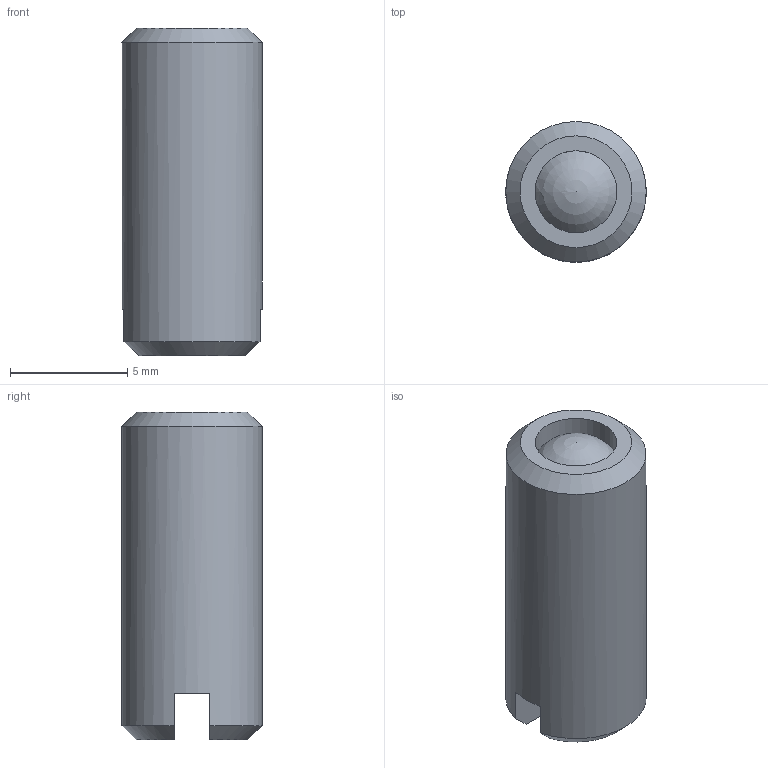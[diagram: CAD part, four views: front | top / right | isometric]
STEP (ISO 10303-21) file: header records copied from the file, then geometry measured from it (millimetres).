
FILE_DESCRIPTION( ( 'STEP AP203' ), '1' );
FILE_NAME( 'C:/Temp/Ganter_Step_05_03_2020/data/3_1/gn615_2/Plastic-Spring plunger GN 615.2-M6-NI (activated).stp', '2020-03-12T08:38:38', ( 'License CC BY-ND 4.0' ), ( 'CADENAS' ), ' ', 'PARTsolutions', ' ' );
FILE_SCHEMA( ( 'CONFIG_CONTROL_DESIGN' ) );
Length unit declared in the file: millimetre
Products named in the file (1): _Plastic-Spring plunger GN 615.2-M6-NI (activated)
Bounding box: 6 x 6 x 14 mm (x, y, z)
Volume: 368 mm3; surface area: 335.8 mm2
Topology: 1 solids, 1 shells, 12 faces, 30 edges, 20 vertices
Faces by surface type: plane 6, cone 3, cylinder 2, sphere 1
Full cylindrical faces by diameter (mm): 3.5 x1, 6 x1
Entity records: 360 total; most frequent: CARTESIAN_POINT 64, DIRECTION 54, ORIENTED_EDGE 44, AXIS2_PLACEMENT_3D 23, EDGE_CURVE 22, VERTEX_POINT 17, EDGE_LOOP 16, FACE_OUTER_BOUND 14
